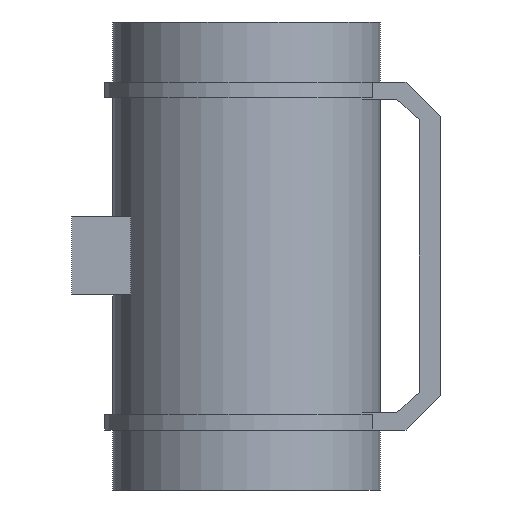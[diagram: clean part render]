
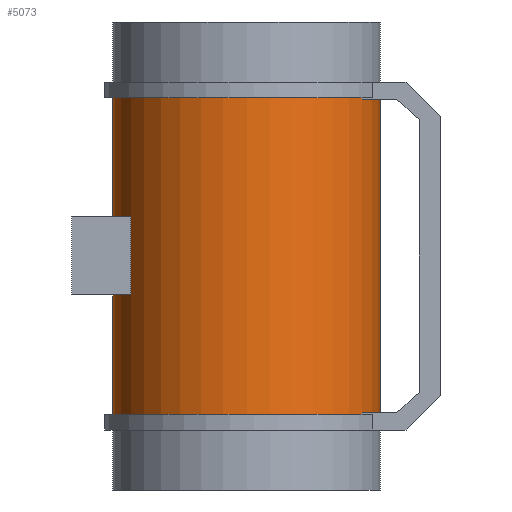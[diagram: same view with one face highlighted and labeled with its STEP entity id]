
A CAD part, front view. The second image highlights one B-rep face of the part: STEP entity #5073.
In plain terms, the highlighted cylindrical face has radius 78 mm (diameter 156 mm), a full revolution.
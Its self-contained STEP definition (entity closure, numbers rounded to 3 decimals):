
#198=FACE_BOUND('',#2017,.T.);
#199=FACE_BOUND('',#2018,.T.);
#483=CYLINDRICAL_SURFACE('',#5469,78.);
#496=LINE('',#7052,#960);
#506=LINE('',#7071,#970);
#507=LINE('',#7074,#971);
#517=LINE('',#7093,#981);
#518=LINE('',#7097,#982);
#522=LINE('',#7106,#986);
#960=VECTOR('',#5762,10.);
#970=VECTOR('',#5772,10.);
#971=VECTOR('',#5775,10.);
#981=VECTOR('',#5785,10.);
#982=VECTOR('',#5788,10.);
#986=VECTOR('',#5794,10.);
#1681=FACE_OUTER_BOUND('',#2016,.T.);
#2016=EDGE_LOOP('',(#3992,#3993,#3994,#3995));
#2017=EDGE_LOOP('',(#3996,#3997,#3998,#3999));
#2018=EDGE_LOOP('',(#4000,#4001,#4002,#4003));
#2274=CIRCLE('',#5328,78.);
#2275=CIRCLE('',#5330,78.);
#2278=CIRCLE('',#5340,78.);
#2279=CIRCLE('',#5342,78.);
#2383=CIRCLE('',#5468,78.);
#2384=CIRCLE('',#5470,78.);
#2438=VERTEX_POINT('',#7023);
#2439=VERTEX_POINT('',#7025);
#2440=VERTEX_POINT('',#7029);
#2442=VERTEX_POINT('',#7032);
#2446=VERTEX_POINT('',#7051);
#2455=VERTEX_POINT('',#7069);
#2456=VERTEX_POINT('',#7073);
#2465=VERTEX_POINT('',#7091);
#2466=VERTEX_POINT('',#7095);
#2467=VERTEX_POINT('',#7096);
#2470=VERTEX_POINT('',#7104);
#2471=VERTEX_POINT('',#7105);
#2906=EDGE_CURVE('',#2439,#2438,#2274,.T.);
#2908=EDGE_CURVE('',#2442,#2440,#2275,.T.);
#2916=EDGE_CURVE('',#2446,#2438,#496,.T.);
#2926=EDGE_CURVE('',#2440,#2455,#506,.T.);
#2927=EDGE_CURVE('',#2456,#2442,#507,.T.);
#2937=EDGE_CURVE('',#2439,#2465,#517,.T.);
#2938=EDGE_CURVE('',#2466,#2467,#518,.T.);
#2942=EDGE_CURVE('',#2470,#2471,#522,.T.);
#2946=EDGE_CURVE('',#2471,#2466,#2278,.T.);
#2948=EDGE_CURVE('',#2467,#2470,#2279,.T.);
#3212=EDGE_CURVE('',#2455,#2456,#2383,.T.);
#3213=EDGE_CURVE('',#2465,#2446,#2384,.T.);
#3992=ORIENTED_EDGE('',*,*,#2926,.T.);
#3993=ORIENTED_EDGE('',*,*,#3212,.T.);
#3994=ORIENTED_EDGE('',*,*,#2927,.T.);
#3995=ORIENTED_EDGE('',*,*,#2908,.T.);
#3996=ORIENTED_EDGE('',*,*,#2938,.T.);
#3997=ORIENTED_EDGE('',*,*,#2948,.T.);
#3998=ORIENTED_EDGE('',*,*,#2942,.T.);
#3999=ORIENTED_EDGE('',*,*,#2946,.T.);
#4000=ORIENTED_EDGE('',*,*,#2906,.F.);
#4001=ORIENTED_EDGE('',*,*,#2937,.T.);
#4002=ORIENTED_EDGE('',*,*,#3213,.T.);
#4003=ORIENTED_EDGE('',*,*,#2916,.T.);
#5073=ADVANCED_FACE('',(#1681,#198,#199),#483,.T.);
#5328=AXIS2_PLACEMENT_3D('',#7027,#5742,#5743);
#5330=AXIS2_PLACEMENT_3D('',#7033,#5747,#5748);
#5340=AXIS2_PLACEMENT_3D('',#7113,#5800,#5801);
#5342=AXIS2_PLACEMENT_3D('',#7116,#5805,#5806);
#5468=AXIS2_PLACEMENT_3D('',#7966,#6177,#6178);
#5469=AXIS2_PLACEMENT_3D('',#7967,#6179,#6180);
#5470=AXIS2_PLACEMENT_3D('',#7968,#6181,#6182);
#5742=DIRECTION('center_axis',(0.,0.,1.));
#5743=DIRECTION('ref_axis',(0.866,-0.5,0.));
#5747=DIRECTION('center_axis',(0.,0.,1.));
#5748=DIRECTION('ref_axis',(0.866,-0.5,0.));
#5762=DIRECTION('',(0.,0.,-1.));
#5772=DIRECTION('',(0.,0.,-1.));
#5775=DIRECTION('',(0.,0.,1.));
#5785=DIRECTION('',(0.,0.,1.));
#5788=DIRECTION('',(0.,0.,1.));
#5794=DIRECTION('',(0.,0.,-1.));
#5800=DIRECTION('center_axis',(0.,0.,-1.));
#5801=DIRECTION('ref_axis',(-1.,0.,0.));
#5805=DIRECTION('center_axis',(0.,0.,1.));
#5806=DIRECTION('ref_axis',(-1.,0.,0.));
#6177=DIRECTION('center_axis',(0.,0.,1.));
#6178=DIRECTION('ref_axis',(-1.,0.,0.));
#6179=DIRECTION('center_axis',(0.,0.,1.));
#6180=DIRECTION('ref_axis',(-1.,0.,0.));
#6181=DIRECTION('center_axis',(0.,0.,-1.));
#6182=DIRECTION('ref_axis',(-1.,0.,0.));
#7023=CARTESIAN_POINT('',(67.55,39.,91.5));
#7025=CARTESIAN_POINT('',(67.55,-39.,91.5));
#7027=CARTESIAN_POINT('Origin',(0.,0.,
91.5));
#7029=CARTESIAN_POINT('',(67.55,39.,-91.5));
#7032=CARTESIAN_POINT('',(67.55,-39.,-91.5));
#7033=CARTESIAN_POINT('Origin',(0.,0.,-91.5));
#7051=CARTESIAN_POINT('',(67.55,39.,92.4));
#7052=CARTESIAN_POINT('',(67.55,39.,0.));
#7069=CARTESIAN_POINT('',(67.55,39.,-92.4));
#7071=CARTESIAN_POINT('',(67.55,39.,0.));
#7073=CARTESIAN_POINT('',(67.55,-39.,-92.4));
#7074=CARTESIAN_POINT('',(67.55,-39.,0.));
#7091=CARTESIAN_POINT('',(67.55,-39.,92.4));
#7093=CARTESIAN_POINT('',(67.55,-39.,0.));
#7095=CARTESIAN_POINT('',(-67.55,39.,-22.75));
#7096=CARTESIAN_POINT('',(-67.55,39.,22.75));
#7097=CARTESIAN_POINT('',(-67.55,39.,0.));
#7104=CARTESIAN_POINT('',(-67.55,-39.,22.75));
#7105=CARTESIAN_POINT('',(-67.55,-39.,-22.75));
#7106=CARTESIAN_POINT('',(-67.55,-39.,0.));
#7113=CARTESIAN_POINT('Origin',(0.,0.,-22.75));
#7116=CARTESIAN_POINT('Origin',(0.,0.,22.75));
#7966=CARTESIAN_POINT('Origin',(0.,0.,-92.4));
#7967=CARTESIAN_POINT('Origin',(0.,0.,0.));
#7968=CARTESIAN_POINT('Origin',(0.,0.,92.4));
